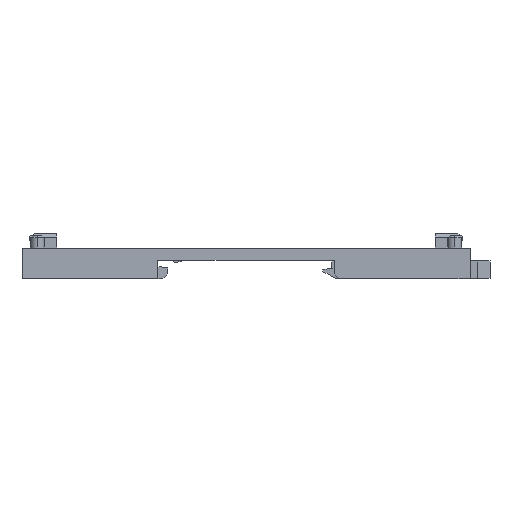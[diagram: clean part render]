
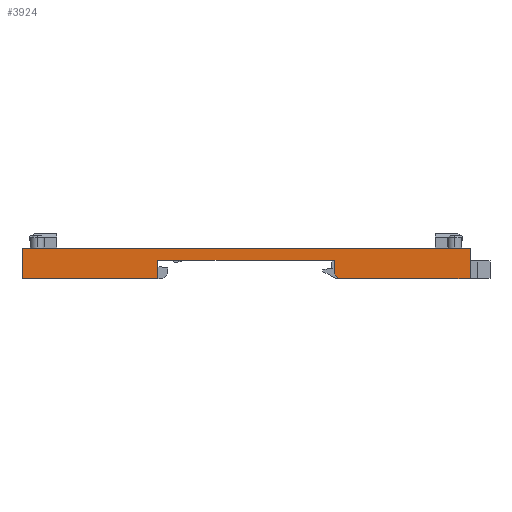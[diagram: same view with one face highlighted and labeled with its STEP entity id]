
A CAD part, left-side view. The second image highlights one B-rep face of the part: STEP entity #3924.
In plain terms, the highlighted planar face has unit normal (-1, 0, 0).
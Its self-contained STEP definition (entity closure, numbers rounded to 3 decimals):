
#231 = CARTESIAN_POINT ( 'NONE',  ( -30., 0., 6.2 ) ) ;
#248 = CARTESIAN_POINT ( 'NONE',  ( -30., -45., 0. ) ) ;
#249 = DIRECTION ( 'NONE',  ( 0., 1., 0. ) ) ;
#250 = VECTOR ( 'NONE', #249, 1000. ) ;
#251 = CARTESIAN_POINT ( 'NONE',  ( -30., 45., 0. ) ) ;
#252 = LINE ( 'NONE', #231, #264 ) ;
#262 = LINE ( 'NONE', #251, #250 ) ;
#264 = VECTOR ( 'NONE', #296, 1000. ) ;
#296 = DIRECTION ( 'NONE',  ( 0., -1., 0. ) ) ;
#413 = DIRECTION ( 'NONE',  ( 0., 1., 0. ) ) ;
#414 = VECTOR ( 'NONE', #413, 1000. ) ;
#415 = CARTESIAN_POINT ( 'NONE',  ( -30., 45., 3.7 ) ) ;
#416 = LINE ( 'NONE', #415, #414 ) ;
#467 = CARTESIAN_POINT ( 'NONE',  ( -30., 45., 0. ) ) ;
#483 = CARTESIAN_POINT ( 'NONE',  ( -30., 17.7, 0. ) ) ;
#606 = CARTESIAN_POINT ( 'NONE',  ( -30., 17.7, 3.7 ) ) ;
#879 = DIRECTION ( 'NONE',  ( 0., 1., 0. ) ) ;
#880 = VECTOR ( 'NONE', #879, 1000. ) ;
#884 = CARTESIAN_POINT ( 'NONE',  ( -30., 45., 0. ) ) ;
#885 = LINE ( 'NONE', #884, #880 ) ;
#1162 = CARTESIAN_POINT ( 'NONE',  ( -30., 45., 6.2 ) ) ;
#1224 = DIRECTION ( 'NONE',  ( 0., 0., 1. ) ) ;
#1225 = VECTOR ( 'NONE', #1224, 1000. ) ;
#1226 = CARTESIAN_POINT ( 'NONE',  ( -30., -45., 6.2 ) ) ;
#1227 = DIRECTION ( 'NONE',  ( 0., 0., -1. ) ) ;
#1228 = DIRECTION ( 'NONE',  ( 1., 0., 0. ) ) ;
#1229 = CARTESIAN_POINT ( 'NONE',  ( -30., 17.7, 3.7 ) ) ;
#1230 = LINE ( 'NONE', #1229, #1225 ) ;
#1234 = DIRECTION ( 'NONE',  ( 0., 0., -1. ) ) ;
#1235 = VECTOR ( 'NONE', #1234, 1000. ) ;
#1236 = CARTESIAN_POINT ( 'NONE',  ( -30., -45., 6.2 ) ) ;
#1237 = CARTESIAN_POINT ( 'NONE',  ( -30., 45., 6.2 ) ) ;
#1238 = LINE ( 'NONE', #1236, #1235 ) ;
#1239 = PLANE ( 'NONE',  #1241 ) ;
#1241 = AXIS2_PLACEMENT_3D ( 'NONE', #1237, #1228, #1227 ) ;
#1242 = FACE_OUTER_BOUND ( 'NONE', #3992, .T. ) ;
#1312 = DIRECTION ( 'NONE',  ( 0., 0., 1. ) ) ;
#1313 = VECTOR ( 'NONE', #1312, 1000. ) ;
#1321 = LINE ( 'NONE', #1323, #1313 ) ;
#1323 = CARTESIAN_POINT ( 'NONE',  ( -30., 45., 6.2 ) ) ;
#2480 = EDGE_CURVE ( 'NONE', #2572, #2573, #5370, .T. ) ;
#2572 = VERTEX_POINT ( 'NONE', #5540 ) ;
#2573 = VERTEX_POINT ( 'NONE', #5469 ) ;
#2687 = EDGE_CURVE ( 'NONE', #2572, #2882, #5830, .T. ) ;
#2882 = VERTEX_POINT ( 'NONE', #6119 ) ;
#3274 = EDGE_CURVE ( 'NONE', #3276, #2573, #262, .T. ) ;
#3276 = VERTEX_POINT ( 'NONE', #248 ) ;
#3393 = EDGE_CURVE ( 'NONE', #2882, #3518, #416, .T. ) ;
#3453 = VERTEX_POINT ( 'NONE', #467 ) ;
#3472 = VERTEX_POINT ( 'NONE', #483 ) ;
#3518 = VERTEX_POINT ( 'NONE', #606 ) ;
#3703 = EDGE_CURVE ( 'NONE', #3472, #3453, #885, .T. ) ;
#3881 = VERTEX_POINT ( 'NONE', #1162 ) ;
#3887 = ORIENTED_EDGE ( 'NONE', *, *, #3993, .F. ) ;
#3920 = ORIENTED_EDGE ( 'NONE', *, *, #3703, .F. ) ;
#3923 = EDGE_CURVE ( 'NONE', #3941, #3276, #1238, .T. ) ;
#3924 = ADVANCED_FACE ( 'NONE', ( #1242 ), #1239, .F. ) ;
#3925 = ORIENTED_EDGE ( 'NONE', *, *, #3926, .T. ) ;
#3926 = EDGE_CURVE ( 'NONE', #3472, #3518, #1230, .T. ) ;
#3927 = ORIENTED_EDGE ( 'NONE', *, *, #3274, .F. ) ;
#3930 = ORIENTED_EDGE ( 'NONE', *, *, #3393, .F. ) ;
#3941 = VERTEX_POINT ( 'NONE', #1226 ) ;
#3945 = ORIENTED_EDGE ( 'NONE', *, *, #2687, .F. ) ;
#3992 = EDGE_LOOP ( 'NONE', ( #3887, #3920, #3925, #3930, #3945, #4005, #3927, #4036, #4038 ) ) ;
#3993 = EDGE_CURVE ( 'NONE', #3453, #3881, #1321, .T. ) ;
#4005 = ORIENTED_EDGE ( 'NONE', *, *, #2480, .T. ) ;
#4036 = ORIENTED_EDGE ( 'NONE', *, *, #3923, .F. ) ;
#4037 = EDGE_CURVE ( 'NONE', #3881, #3941, #252, .T. ) ;
#4038 = ORIENTED_EDGE ( 'NONE', *, *, #4037, .F. ) ;
#5367 = DIRECTION ( 'NONE',  ( 0., -0.707, -0.707 ) ) ;
#5368 = VECTOR ( 'NONE', #5367, 1000. ) ;
#5369 = CARTESIAN_POINT ( 'NONE',  ( -30., -17.7, 1. ) ) ;
#5370 = LINE ( 'NONE', #5369, #5368 ) ;
#5469 = CARTESIAN_POINT ( 'NONE',  ( -30., -18.7, 0. ) ) ;
#5540 = CARTESIAN_POINT ( 'NONE',  ( -30., -17.7, 1. ) ) ;
#5766 = CARTESIAN_POINT ( 'NONE',  ( -30., -17.7, 6.2 ) ) ;
#5827 = DIRECTION ( 'NONE',  ( 0., 0., 1. ) ) ;
#5828 = VECTOR ( 'NONE', #5827, 1000. ) ;
#5830 = LINE ( 'NONE', #5766, #5828 ) ;
#6119 = CARTESIAN_POINT ( 'NONE',  ( -30., -17.7, 3.7 ) ) ;
